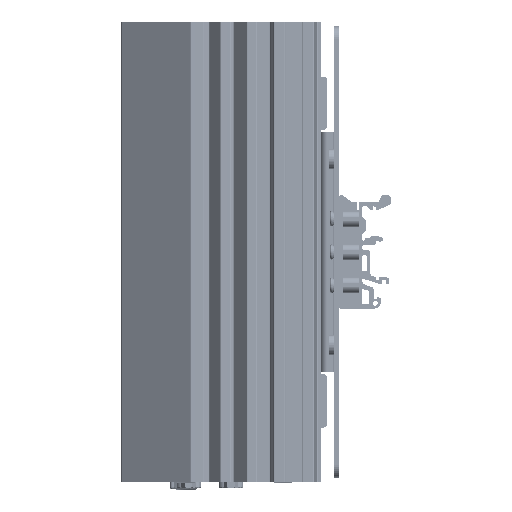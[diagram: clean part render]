
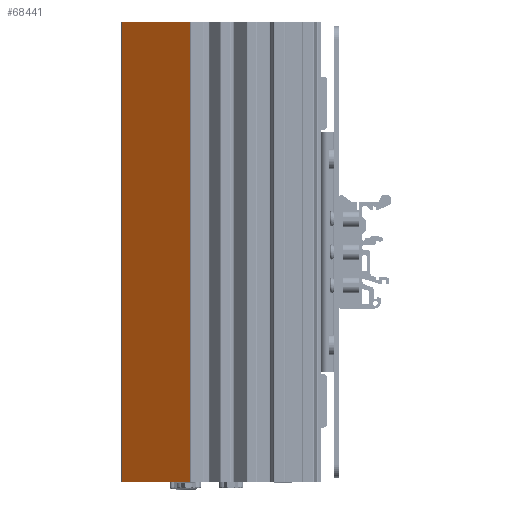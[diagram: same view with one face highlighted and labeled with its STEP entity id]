
A CAD part, left-side view. The second image highlights one B-rep face of the part: STEP entity #68441.
In plain terms, the highlighted planar face has unit normal (-0.819, 0.574, 0).
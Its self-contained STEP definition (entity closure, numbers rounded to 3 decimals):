
#50557 = DIRECTION ( 'NONE',  ( 0.819, -0.574, 0. ) ) ;
#68441 = ADVANCED_FACE ( 'NONE', ( #376770 ), #316170, .F. ) ;
#73534 = ORIENTED_EDGE ( 'NONE', *, *, #473265, .T. ) ;
#82968 = VECTOR ( 'NONE', #530211, 1000. ) ;
#83290 = DIRECTION ( 'NONE',  ( 0., 0., -1. ) ) ;
#95508 = VECTOR ( 'NONE', #83290, 1000. ) ;
#105033 = LINE ( 'NONE', #208370, #312967 ) ;
#110813 = LINE ( 'NONE', #264775, #82968 ) ;
#117886 = VERTEX_POINT ( 'NONE', #155028 ) ;
#122807 = VERTEX_POINT ( 'NONE', #253004 ) ;
#153277 = EDGE_CURVE ( 'NONE', #122807, #199934, #105033, .T. ) ;
#155028 = CARTESIAN_POINT ( 'NONE',  ( -120.999, 48.992, -86.5 ) ) ;
#187338 = ORIENTED_EDGE ( 'NONE', *, *, #330885, .T. ) ;
#199934 = VERTEX_POINT ( 'NONE', #408975 ) ;
#208370 = CARTESIAN_POINT ( 'NONE',  ( -122.022, 47.53, 86.5 ) ) ;
#209122 = DIRECTION ( 'NONE',  ( 0., 0., 1. ) ) ;
#226491 = VERTEX_POINT ( 'NONE', #315952 ) ;
#253004 = CARTESIAN_POINT ( 'NONE',  ( -102.947, 74.772, 86.5 ) ) ;
#264775 = CARTESIAN_POINT ( 'NONE',  ( -122.022, 47.53, -86.5 ) ) ;
#282519 = LINE ( 'NONE', #519037, #386491 ) ;
#302437 = EDGE_CURVE ( 'NONE', #122807, #226491, #317363, .T. ) ;
#312967 = VECTOR ( 'NONE', #473582, 1000. ) ;
#315952 = CARTESIAN_POINT ( 'NONE',  ( -102.947, 74.772, -86.5 ) ) ;
#316170 = PLANE ( 'NONE',  #562499 ) ;
#317363 = LINE ( 'NONE', #526850, #95508 ) ;
#330885 = EDGE_CURVE ( 'NONE', #226491, #117886, #110813, .T. ) ;
#360774 = DIRECTION ( 'NONE',  ( 0.574, 0.819, 0. ) ) ;
#376770 = FACE_OUTER_BOUND ( 'NONE', #573373, .T. ) ;
#386491 = VECTOR ( 'NONE', #209122, 1000. ) ;
#408975 = CARTESIAN_POINT ( 'NONE',  ( -120.999, 48.992, 86.5 ) ) ;
#452762 = ORIENTED_EDGE ( 'NONE', *, *, #153277, .F. ) ;
#473265 = EDGE_CURVE ( 'NONE', #117886, #199934, #282519, .T. ) ;
#473582 = DIRECTION ( 'NONE',  ( -0.574, -0.819, 0. ) ) ;
#492350 = CARTESIAN_POINT ( 'NONE',  ( -122.022, 47.53, 86.5 ) ) ;
#519037 = CARTESIAN_POINT ( 'NONE',  ( -120.999, 48.992, 86.5 ) ) ;
#526850 = CARTESIAN_POINT ( 'NONE',  ( -102.947, 74.772, 86.5 ) ) ;
#530211 = DIRECTION ( 'NONE',  ( -0.574, -0.819, 0. ) ) ;
#543414 = ORIENTED_EDGE ( 'NONE', *, *, #302437, .T. ) ;
#562499 = AXIS2_PLACEMENT_3D ( 'NONE', #492350, #50557, #360774 ) ;
#573373 = EDGE_LOOP ( 'NONE', ( #187338, #73534, #452762, #543414 ) ) ;
